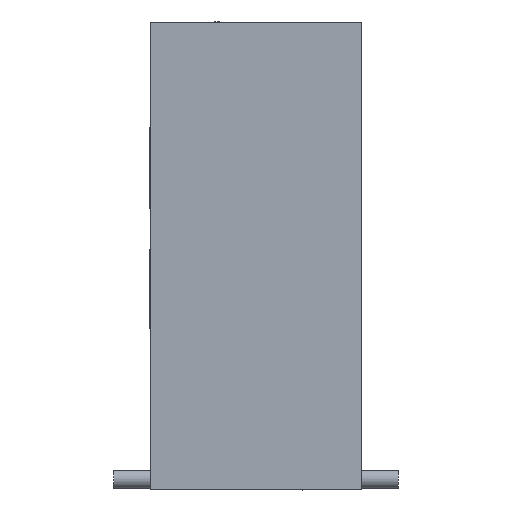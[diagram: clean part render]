
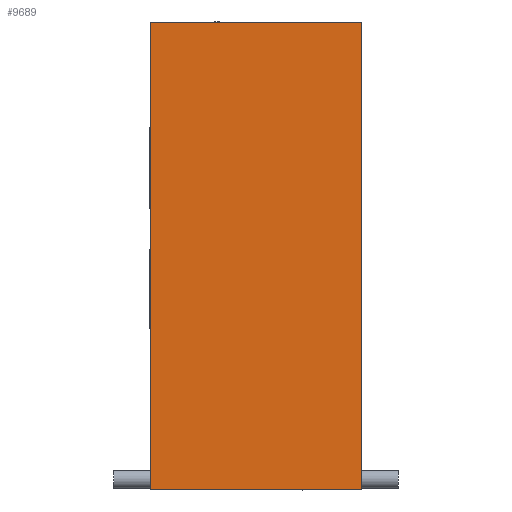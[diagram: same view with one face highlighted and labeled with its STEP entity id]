
A CAD part, left-side view. The second image highlights one B-rep face of the part: STEP entity #9689.
In plain terms, the highlighted planar face has unit normal (-1, 0, 0).
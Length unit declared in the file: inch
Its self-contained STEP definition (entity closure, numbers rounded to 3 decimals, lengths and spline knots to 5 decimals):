
#74 = VECTOR ( 'NONE', #16054, 39.37008 ) ;
#754 = LINE ( 'NONE', #5914, #74 ) ;
#1158 = EDGE_CURVE ( 'NONE', #11005, #26240, #30538, .T. ) ;
#3509 = ORIENTED_EDGE ( 'NONE', *, *, #3605, .F. ) ;
#3605 = EDGE_CURVE ( 'NONE', #26240, #12304, #6588, .T. ) ;
#5054 = CARTESIAN_POINT ( 'NONE',  ( -0.325, 0.0625, 0.15 ) ) ;
#5914 = CARTESIAN_POINT ( 'NONE',  ( -0.325, 0.0625, -0.105 ) ) ;
#6588 = LINE ( 'NONE', #6920, #11233 ) ;
#6920 = CARTESIAN_POINT ( 'NONE',  ( -0.325, -0.0525, 0.15 ) ) ;
#7006 = DIRECTION ( 'NONE',  ( 0., 1., 0. ) ) ;
#7170 = CARTESIAN_POINT ( 'NONE',  ( -0.325, 0.0625, 0.15 ) ) ;
#9689 = ADVANCED_FACE ( 'NONE', ( #12299 ), #29549, .F. ) ;
#11005 = VERTEX_POINT ( 'NONE', #5054 ) ;
#11233 = VECTOR ( 'NONE', #14208, 39.37008 ) ;
#12190 = CARTESIAN_POINT ( 'NONE',  ( -0.325, 0.0625, 0.15 ) ) ;
#12299 = FACE_OUTER_BOUND ( 'NONE', #16647, .T. ) ;
#12304 = VERTEX_POINT ( 'NONE', #32123 ) ;
#12457 = DIRECTION ( 'NONE',  ( 1., 0., 0. ) ) ;
#14208 = DIRECTION ( 'NONE',  ( 0., 0., -1. ) ) ;
#15028 = LINE ( 'NONE', #12190, #21329 ) ;
#16054 = DIRECTION ( 'NONE',  ( 0., -1., 0. ) ) ;
#16647 = EDGE_LOOP ( 'NONE', ( #17655, #3509, #32348, #28406 ) ) ;
#17655 = ORIENTED_EDGE ( 'NONE', *, *, #27605, .T. ) ;
#18439 = AXIS2_PLACEMENT_3D ( 'NONE', #7170, #12457, #7006 ) ;
#18452 = VECTOR ( 'NONE', #25387, 39.37008 ) ;
#21329 = VECTOR ( 'NONE', #27950, 39.37008 ) ;
#23572 = CARTESIAN_POINT ( 'NONE',  ( -0.325, 0.0625, 0.15 ) ) ;
#25387 = DIRECTION ( 'NONE',  ( 0., -1., 0. ) ) ;
#26240 = VERTEX_POINT ( 'NONE', #31463 ) ;
#27605 = EDGE_CURVE ( 'NONE', #30160, #12304, #754, .T. ) ;
#27795 = EDGE_CURVE ( 'NONE', #11005, #30160, #15028, .T. ) ;
#27950 = DIRECTION ( 'NONE',  ( 0., 0., -1. ) ) ;
#28406 = ORIENTED_EDGE ( 'NONE', *, *, #27795, .T. ) ;
#29549 = PLANE ( 'NONE',  #18439 ) ;
#30160 = VERTEX_POINT ( 'NONE', #30827 ) ;
#30538 = LINE ( 'NONE', #23572, #18452 ) ;
#30827 = CARTESIAN_POINT ( 'NONE',  ( -0.325, 0.0625, -0.105 ) ) ;
#31463 = CARTESIAN_POINT ( 'NONE',  ( -0.325, -0.0525, 0.15 ) ) ;
#32123 = CARTESIAN_POINT ( 'NONE',  ( -0.325, -0.0525, -0.105 ) ) ;
#32348 = ORIENTED_EDGE ( 'NONE', *, *, #1158, .F. ) ;
